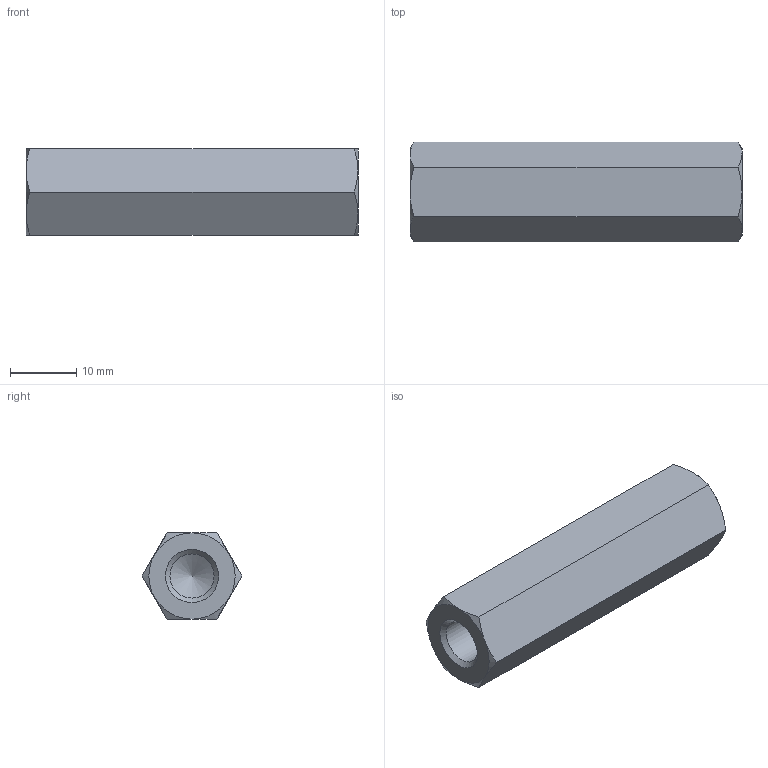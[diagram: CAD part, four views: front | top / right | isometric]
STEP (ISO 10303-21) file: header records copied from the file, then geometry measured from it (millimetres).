
FILE_DESCRIPTION( ( 'STEP AP203' ), '1' );
FILE_NAME( 'C:/Temp/Ganter_Step_05_03_2020/data/3_2/gn6220/gn6220_ni/Stainless Steel-Spacer GN 6220-NI-M8-50-A.stp', '2020-03-13T05:43:06', ( 'License CC BY-ND 4.0' ), ( 'CADENAS' ), ' ', 'PARTsolutions', ' ' );
FILE_SCHEMA( ( 'CONFIG_CONTROL_DESIGN' ) );
Length unit declared in the file: millimetre
Products named in the file (1): _Stainless Steel-Spacer GN 6220-NI-M8-50-A
Bounding box: 50 x 15.01 x 13 mm (x, y, z)
Volume: 5854.8 mm3; surface area: 3370.5 mm2
Topology: 1 solids, 1 shells, 26 faces, 57 edges, 33 vertices
Faces by surface type: cone 16, plane 8, cylinder 2
Full cylindrical faces by diameter (mm): 6.647 x2
Entity records: 782 total; most frequent: CARTESIAN_POINT 243, DIRECTION 96, ORIENTED_EDGE 96, EDGE_CURVE 48, AXIS2_PLACEMENT_3D 45, EDGE_LOOP 32, VERTEX_POINT 32, FACE_OUTER_BOUND 28
